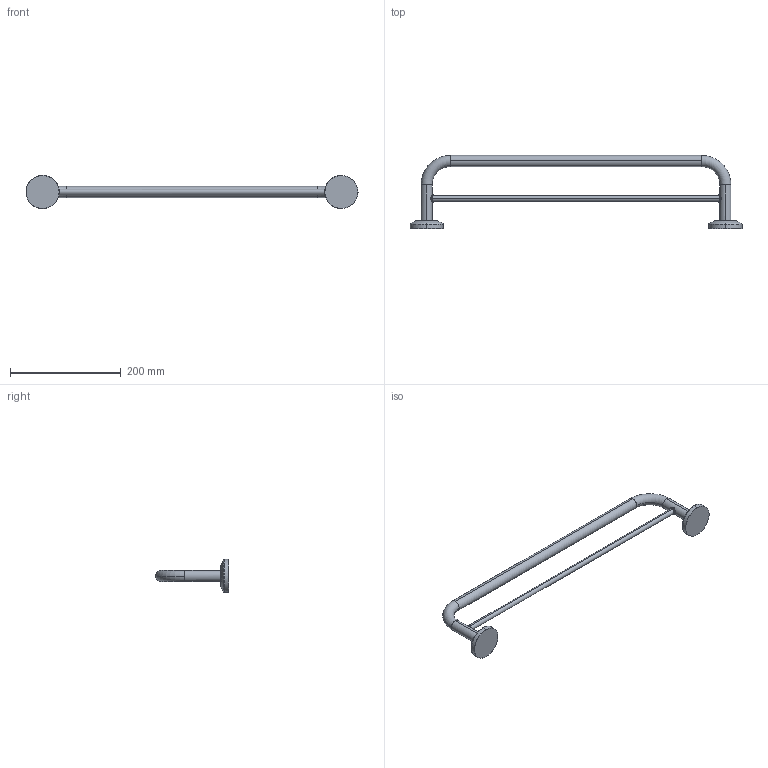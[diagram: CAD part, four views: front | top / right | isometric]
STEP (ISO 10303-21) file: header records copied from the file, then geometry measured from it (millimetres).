
FILE_DESCRIPTION(('THIS FILE CONTAINS SOME STEP INSTANCES'),'1');
FILE_NAME('sta_037.stp','2015-12-07T10:16:13',('UNDEFINED'),('UNDEFINED'),'T-FLEX CAD STEP converter','T-FLEX CAD','');
FILE_SCHEMA(('CONFIG_CONTROL_DESIGN'));
Length unit declared in the file: metre
Products named in the file (1): 3D 鐨飹懤艜_21
Bounding box: 600 x 132 x 60 mm (x, y, z)
Volume: 336692.1 mm3; surface area: 75707 mm2
Topology: 1 solids, 1 shells, 64 faces, 156 edges, 96 vertices
Faces by surface type: cylinder 20, bspline 16, cone 12, torus 12, plane 4
Entity records: 6068 total; most frequent: CARTESIAN_POINT 4879, ORIENTED_EDGE 312, EDGE_CURVE 156, DIRECTION 148, VERTEX_POINT 96, EDGE_LOOP 68, ADVANCED_FACE 64, FACE_OUTER_BOUND 64
